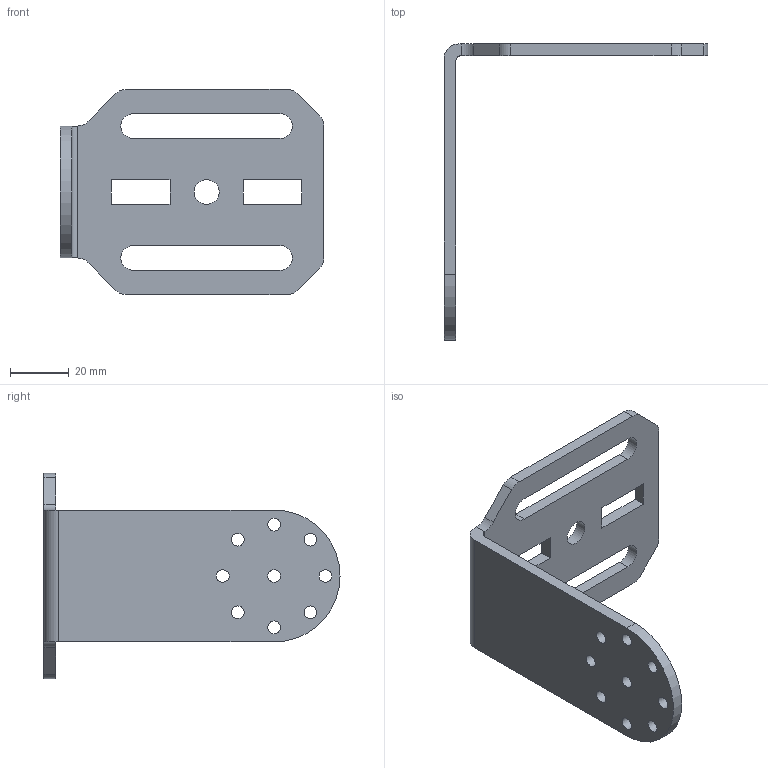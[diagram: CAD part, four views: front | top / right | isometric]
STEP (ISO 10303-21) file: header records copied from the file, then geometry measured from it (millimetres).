
FILE_DESCRIPTION(/* description */ (''),/* implementation_level */ '2;1');
FILE_NAME(/* name */ 'MP031627-03.stp',/* time_stamp */ '2021-05-17T17:40:53+02:00',/* author */ (''),/* organization */ (''),/* preprocessor_version */ 'ST-DEVELOPER v16.7',/* originating_system */ 'SIEMENS PLM Software NX 1946',/* authorisation */ '');
FILE_SCHEMA (('AUTOMOTIVE_DESIGN { 1 0 10303 214 3 1 1 1 }'));
Length unit declared in the file: millimetre
Products named in the file (1): info1C483A4B9cw4
Bounding box: 90 x 101 x 70 mm (x, y, z)
Volume: 33736.5 mm3; surface area: 20758.1 mm2
Topology: 1 solids, 1 shells, 50 faces, 149 edges, 101 vertices
Faces by surface type: plane 25, cylinder 25
Full cylindrical faces by diameter (mm): 4.35 x9, 8.5 x1
Entity records: 1678 total; most frequent: DIRECTION 284, CARTESIAN_POINT 277, ORIENTED_EDGE 264, EDGE_CURVE 132, AXIS2_PLACEMENT_3D 101, VERTEX_POINT 94, EDGE_LOOP 88, LINE 82
